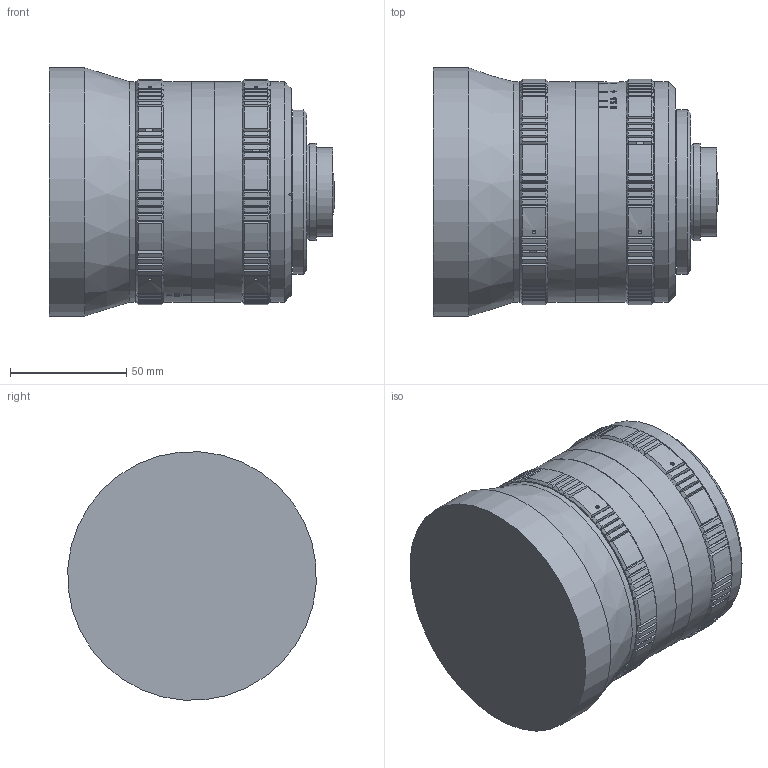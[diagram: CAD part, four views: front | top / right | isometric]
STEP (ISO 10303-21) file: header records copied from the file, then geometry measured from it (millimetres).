
FILE_DESCRIPTION((''),'2;1');
FILE_NAME('\\10.0.0.209\Doc Produ\Meccaniche\STP\A_2008\C0809\C0809_000\C0809_003.stp','2014-04-28T11:47:34',('mcilia'),(''),'Autodesk Inventor 2010','Autodesk Inventor 2010','');
FILE_SCHEMA(('AUTOMOTIVE_DESIGN { 1 0 10303 214 1 1 1 1 }'));
Length unit declared in the file: millimetre
Products named in the file (2): C0809_003_000 (Livello di dettaglio sostituto2); C0809_003
Assembly tree (1 placements, depth 2):
  C0809_003_000 (Livello di dettaglio sostituto2)
    C0809_003
Bounding box: 122.6 x 106.74 x 106.74 mm (x, y, z)
Surface area: 114494.8 mm2 (no closed solid volume)
Topology: 0 solids, 19 shells, 610 faces, 1880 edges, 1281 vertices
Faces by surface type: plane 237, cone 223, cylinder 128, bspline 21, sphere 1
Full cylindrical faces by diameter (mm): 38 x1, 40.7 x1, 42 x1, 71 x1, 95 x4, 107 x1
Entity records: 22473 total; most frequent: CARTESIAN_POINT 6900, ORIENTED_EDGE 2996, DIRECTION 2940, EDGE_CURVE 1840, VERTEX_POINT 1268, AXIS2_PLACEMENT_3D 1216, EDGE_LOOP 693, FACE_OUTER_BOUND 610
